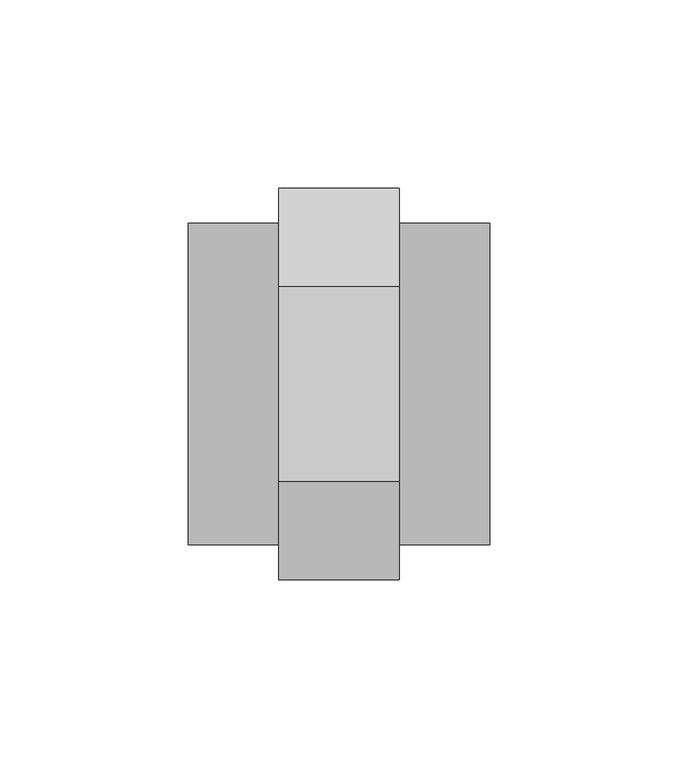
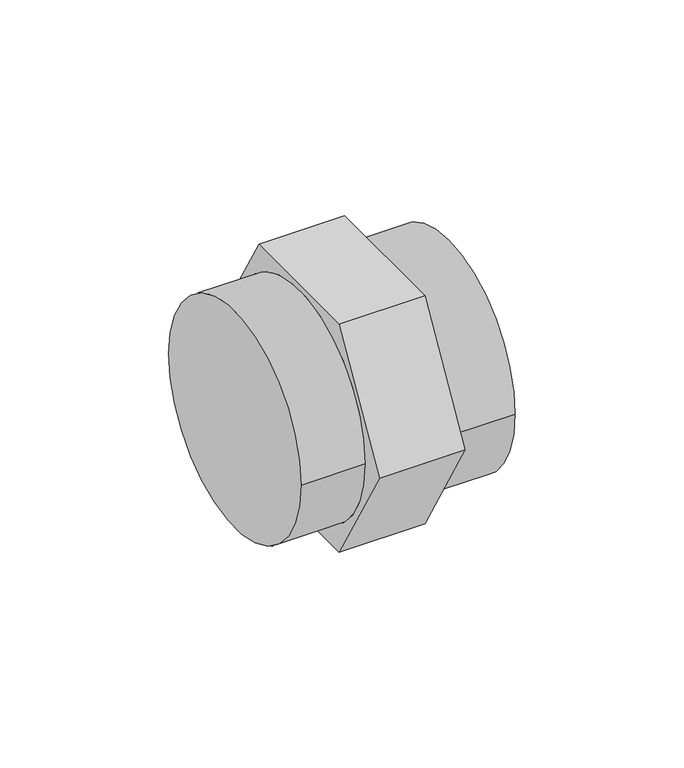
"""IFC4 building model written with IfcOpenShell, lengths in millimetres: pipe fitting geometry, 01101007 : Uniao F/F."""

from ifc_helpers import new_model, si_unit, frame, origin, place, context, project, spatial, circle_curve, source, transform, mapped, element, save
from ifc_brep_helpers import plane_surface, cylinder_surface, advanced_brep


def pipe_fitting_94952de7(model_context):
    return source(origin(), model_context, "Body", "AdvancedBrep", [
        advanced_brep(
        [(16.0, -25.9807621, 45.0), (16.0, -51.9615242, 0.0), (16.0, -25.9807621, -45.0), (16.0, 25.9807621, -45.0), (16.0, 51.9615242, 0.0), (16.0, 25.9807621, 45.0), (16.0, -42.75, 0.0), (16.0, 42.75, 0.0), (-16.0, -25.9807621, 45.0), (-16.0, 25.9807621, 45.0), (-16.0, 51.9615242, 0.0), (-16.0, 25.9807621, -45.0), (-16.0, -25.9807621, -45.0), (-16.0, -51.9615242, 0.0), (-16.0, 42.75, 0.0), (-16.0, -42.75, 0.0), (-40.0, -42.75, 0.0), (-40.0, 42.75, 0.0), (40.0, -42.75, 0.0), (40.0, 42.75, 0.0)],
        [
            (0, 1),
            (1, 2),
            (2, 3),
            (3, 4),
            (4, 5),
            (5, 0),
            (6, 7, circle_curve(frame((16.0, 0.0, 0.0), z_axis=(-1.0, 0.0, 0.0), x_axis=(0.0, 1.0, 0.0)), 42.75)),
            (7, 6, circle_curve(frame((16.0, 0.0, 0.0), z_axis=(-1.0, 0.0, 0.0), x_axis=(0.0, 1.0, 0.0)), 42.75)),
            (8, 9),
            (9, 10),
            (10, 11),
            (11, 12),
            (12, 13),
            (13, 8),
            (14, 15, circle_curve(frame((-16.0, 0.0, 0.0), z_axis=(1.0, 0.0, 0.0), x_axis=(0.0, 1.0, 0.0)), 42.75)),
            (15, 14, circle_curve(frame((-16.0, 0.0, 0.0), z_axis=(1.0, 0.0, 0.0), x_axis=(0.0, 1.0, 0.0)), 42.75)),
            (0, 8),
            (13, 1),
            (12, 2),
            (11, 3),
            (10, 4),
            (9, 5),
            (16, 17, circle_curve(frame((-40.0, 0.0, 0.0), z_axis=(-1.0, 0.0, 0.0), x_axis=(0.0, 1.0, 0.0)), 42.75)),
            (17, 16, circle_curve(frame((-40.0, 0.0, 0.0), z_axis=(-1.0, 0.0, 0.0), x_axis=(0.0, 1.0, 0.0)), 42.75)),
            (18, 19, circle_curve(frame((40.0, 0.0, 0.0), z_axis=(1.0, 0.0, 0.0), x_axis=(0.0, 1.0, 0.0)), 42.75)),
            (19, 18, circle_curve(frame((40.0, 0.0, 0.0), z_axis=(1.0, 0.0, 0.0), x_axis=(0.0, 1.0, 0.0)), 42.75)),
            (16, 15),
            (14, 17),
            (19, 7),
            (6, 18),
        ],
        [
            plane_surface(frame((16.0, -25.9807621, 45.0), z_axis=(1.0000000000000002, 0.0, 0.0), x_axis=(0.0, -0.5000000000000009, -0.8660254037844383))),
            plane_surface(frame((-16.0, -25.9807621, 45.0), z_axis=(-1.0000000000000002, 0.0, 0.0), x_axis=(0.0, 0.5000000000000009, 0.8660254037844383))),
            plane_surface(frame((16.0, -25.9807621, 45.0), z_axis=(0.0, -0.8660254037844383, 0.5000000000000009), x_axis=(-1.0, 0.0, 0.0))),
            plane_surface(frame((16.0, -51.9615242, 0.0), z_axis=(0.0, -0.866025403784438, -0.5000000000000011), x_axis=(-1.0, 0.0, 0.0))),
            plane_surface(frame((16.0, -25.9807621, -45.0), z_axis=(0.0, 0.0, -1.0), x_axis=(-1.0, 0.0, 0.0))),
            plane_surface(frame((16.0, 25.9807621, -45.0), z_axis=(0.0, 0.8660254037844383, -0.5000000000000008), x_axis=(-1.0, 0.0, 0.0))),
            plane_surface(frame((16.0, 51.9615242, 0.0), z_axis=(0.0, 0.8660254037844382, 0.500000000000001), x_axis=(-1.0, 0.0, 0.0))),
            plane_surface(frame((16.0, 25.9807621, 45.0), z_axis=(0.0, 0.0, 1.0), x_axis=(-1.0, 0.0, 0.0))),
            plane_surface(frame((-40.0, 0.0, 0.0), z_axis=(-1.0, 0.0, 0.0), x_axis=(0.0, 0.0, 1.0))),
            plane_surface(frame((40.0, 0.0, 0.0), z_axis=(1.0, 0.0, 0.0), x_axis=(0.0, 0.0, 1.0))),
            cylinder_surface(frame((-40.0, 0.0, 0.0), z_axis=(-1.0, 0.0, 0.0), x_axis=(0.0, 1.0, 0.0)), 42.75),
        ],
        [
            (0, [[1, 2, 3, 4, 5, 6], [7, 8]]),
            (1, [[9, 10, 11, 12, 13, 14], [15, 16]]),
            (2, [[-1, 17, -14, 18]]),
            (3, [[-2, -18, -13, 19]]),
            (4, [[-3, -19, -12, 20]]),
            (5, [[-4, -20, -11, 21]]),
            (6, [[-5, -21, -10, 22]]),
            (7, [[-6, -22, -9, -17]]),
            (8, [[23, 24]]),
            (9, [[25, 26]]),
            (10, [[-23, 27, -15, 28]]),
            (10, [[-26, 29, -7, 30]]),
            (10, [[-24, -28, -16, -27]]),
            (10, [[-25, -30, -8, -29]]),
        ],
    ),
    ])


if __name__ == "__main__":
    model = new_model("IFC4")
    model_context = context("Model", 3, world=origin())
    ifc_project = project(units=[si_unit("LENGTHUNIT", "METRE", prefix="MILLI")], contexts=[model_context])
    site = spatial("IfcSite", under=ifc_project)
    building = spatial("IfcBuilding", under=site)
    placement = place(None, origin())
    pipe_fitting_shape = pipe_fitting_94952de7(model_context)
    element("IfcPipeFitting", 1, ObjectType="01101007 : Uniao F/F", at=placement, inside=building, context=model_context, shape_type="MappedRepresentation", body=[
        mapped(pipe_fitting_shape, transform((0.0, 0.0, 0.0), x_axis=(1.0, 0.0, 0.0), y_axis=(0.0, 1.0, 0.0), z_axis=(0.0, 0.0, 1.0))),
    ])
    save(model, "model.ifc")
